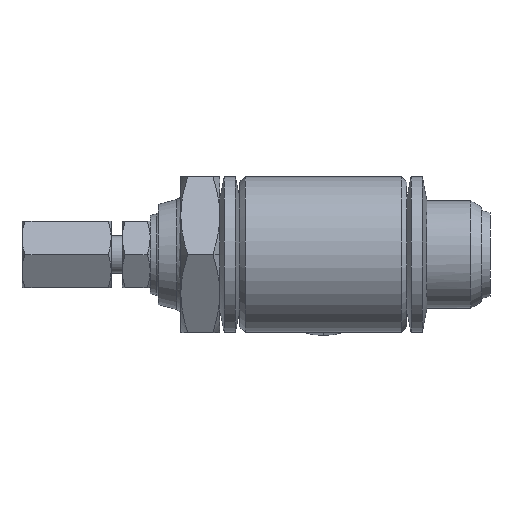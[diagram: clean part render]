
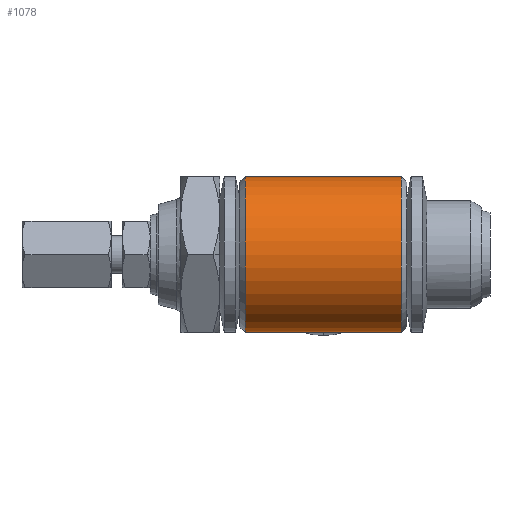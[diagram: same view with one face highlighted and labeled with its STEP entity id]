
A CAD part, left-side view. The second image highlights one B-rep face of the part: STEP entity #1078.
In plain terms, the highlighted cylindrical face has radius 7.021 mm (diameter 14.042 mm), a partial arc.
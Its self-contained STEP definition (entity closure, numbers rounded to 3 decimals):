
#286 = DIRECTION ( 'NONE',  ( 0., -1., 0. ) ) ;
#316 = CARTESIAN_POINT ( 'NONE',  ( -0.012, 6.419, 7.022 ) ) ;
#587 = DIRECTION ( 'NONE',  ( 0., -1., 0. ) ) ;
#755 = LINE ( 'NONE', #5089, #3598 ) ;
#770 = ORIENTED_EDGE ( 'NONE', *, *, #1253, .F. ) ;
#862 = VERTEX_POINT ( 'NONE', #6668 ) ;
#1078 = ADVANCED_FACE ( 'NONE', ( #4641 ), #1518, .T. ) ;
#1086 = ORIENTED_EDGE ( 'NONE', *, *, #2897, .T. ) ;
#1253 = EDGE_CURVE ( 'NONE', #4523, #1419, #2456, .T. ) ;
#1419 = VERTEX_POINT ( 'NONE', #6169 ) ;
#1518 = CYLINDRICAL_SURFACE ( 'NONE', #6622, 7.021 ) ;
#1670 = EDGE_CURVE ( 'NONE', #4523, #2272, #5198, .T. ) ;
#2267 = CARTESIAN_POINT ( 'NONE',  ( -0.012, 7.923, 0.001 ) ) ;
#2272 = VERTEX_POINT ( 'NONE', #5202 ) ;
#2456 = LINE ( 'NONE', #316, #5281 ) ;
#2493 = DIRECTION ( 'NONE',  ( 0., 0., -1. ) ) ;
#2507 = DIRECTION ( 'NONE',  ( 0., -1., 0. ) ) ;
#2575 = ORIENTED_EDGE ( 'NONE', *, *, #1670, .T. ) ;
#2635 = CARTESIAN_POINT ( 'NONE',  ( -0.012, 21.965, 0.001 ) ) ;
#2670 = DIRECTION ( 'NONE',  ( 0., -1., 0. ) ) ;
#2698 = DIRECTION ( 'NONE',  ( 0., 0., -1. ) ) ;
#2866 = DIRECTION ( 'NONE',  ( 0., 0., -1. ) ) ;
#2897 = EDGE_CURVE ( 'NONE', #2272, #862, #755, .T. ) ;
#3242 = AXIS2_PLACEMENT_3D ( 'NONE', #2635, #2670, #2698 ) ;
#3245 = AXIS2_PLACEMENT_3D ( 'NONE', #2267, #6261, #2866 ) ;
#3598 = VECTOR ( 'NONE', #587, 1000. ) ;
#4048 = EDGE_LOOP ( 'NONE', ( #770, #2575, #1086, #4706 ) ) ;
#4516 = EDGE_CURVE ( 'NONE', #862, #1419, #6274, .T. ) ;
#4523 = VERTEX_POINT ( 'NONE', #5090 ) ;
#4641 = FACE_OUTER_BOUND ( 'NONE', #4048, .T. ) ;
#4706 = ORIENTED_EDGE ( 'NONE', *, *, #4516, .T. ) ;
#5089 = CARTESIAN_POINT ( 'NONE',  ( -0.012, 6.419, -7.02 ) ) ;
#5090 = CARTESIAN_POINT ( 'NONE',  ( -0.012, 21.965, 7.022 ) ) ;
#5198 = CIRCLE ( 'NONE', #3242, 7.021 ) ;
#5202 = CARTESIAN_POINT ( 'NONE',  ( -0.012, 21.965, -7.02 ) ) ;
#5204 = CARTESIAN_POINT ( 'NONE',  ( -0.012, 6.419, 0.001 ) ) ;
#5281 = VECTOR ( 'NONE', #286, 1000. ) ;
#6169 = CARTESIAN_POINT ( 'NONE',  ( -0.012, 7.923, 7.022 ) ) ;
#6261 = DIRECTION ( 'NONE',  ( 0., 1., 0. ) ) ;
#6274 = CIRCLE ( 'NONE', #3245, 7.021 ) ;
#6622 = AXIS2_PLACEMENT_3D ( 'NONE', #5204, #2507, #2493 ) ;
#6668 = CARTESIAN_POINT ( 'NONE',  ( -0.012, 7.923, -7.02 ) ) ;
